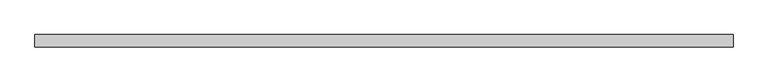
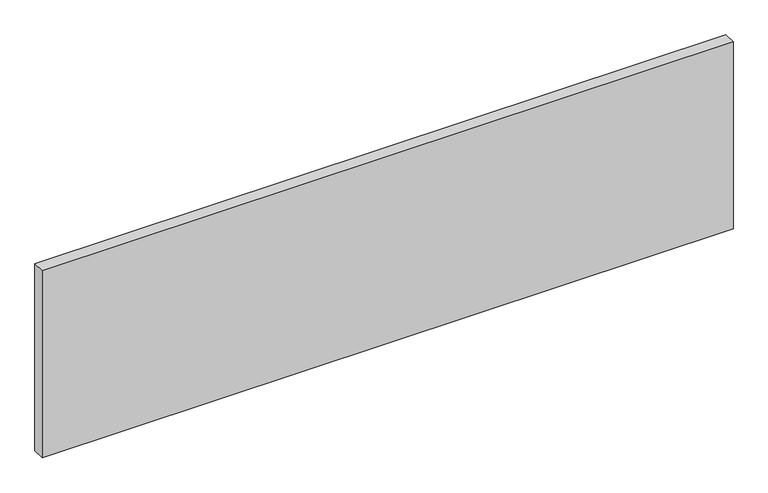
"""IFC4 building model written with IfcOpenShell, lengths in millimetres: plate geometry, Системная панель : С остеклением."""

from ifc_helpers import new_model, si_unit, origin, origin_with_axes, place, context, project, spatial, polyline, outline, extrude, source, transform, mapped, element, save


def plate_750a9cc7(model_context):
    return source(origin(), model_context, "Body", "SweptSolid", [
        extrude(outline(polyline([(700.0, 24.5), (-700.0, 24.5), (-700.0, 49.5), (700.0, 49.5), (700.0, 24.5)])), origin_with_axes(), (0.0, 0.0, 1.0), 400.0),
    ])


if __name__ == "__main__":
    model = new_model("IFC4")
    model_context = context("Model", 3, world=origin())
    ifc_project = project(units=[si_unit("LENGTHUNIT", "METRE", prefix="MILLI")], contexts=[model_context])
    site = spatial("IfcSite", under=ifc_project)
    building = spatial("IfcBuilding", under=site)
    placement = place(None, origin())
    plate_shape = plate_750a9cc7(model_context)
    element("IfcPlate", 1, ObjectType="Системная панель : С остеклением", at=placement, inside=building, context=model_context, shape_type="MappedRepresentation", body=[
        mapped(plate_shape, transform((0.0, 0.0, 0.0), x_axis=(1.0, 0.0, 0.0), y_axis=(0.0, 1.0, 0.0), z_axis=(0.0, 0.0, 1.0))),
    ])
    save(model, "model.ifc")
